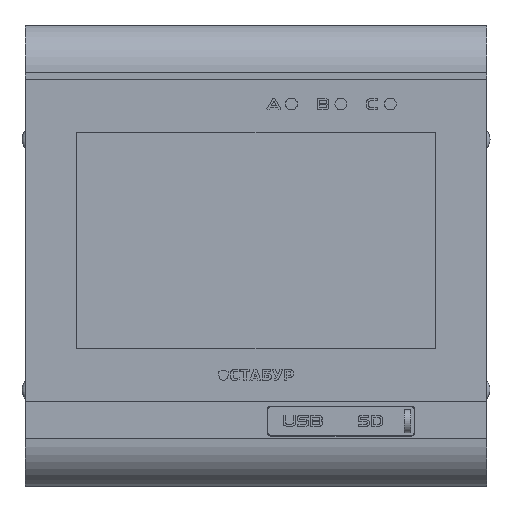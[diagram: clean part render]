
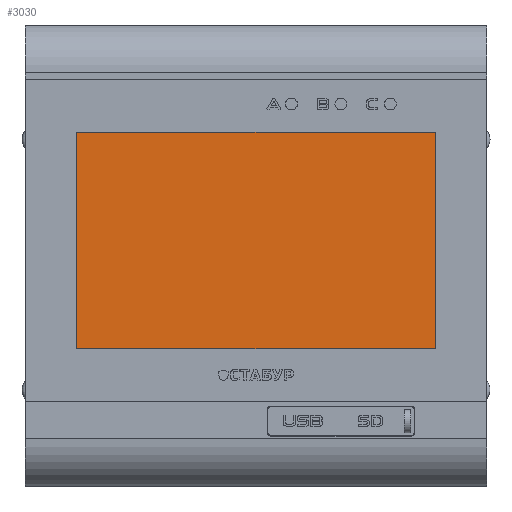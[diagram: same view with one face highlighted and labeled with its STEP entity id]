
A CAD part, top view. The second image highlights one B-rep face of the part: STEP entity #3030.
In plain terms, the highlighted planar face has unit normal (0, 0, 1).
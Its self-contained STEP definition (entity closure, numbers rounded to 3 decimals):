
#635 = CARTESIAN_POINT ( 'NONE',  ( 124.45, 107.493, 10.85 ) ) ;
#985 = VECTOR ( 'NONE', #49834, 1000. ) ;
#3030 = ADVANCED_FACE ( 'NONE', ( #22650 ), #9024, .T. ) ;
#3526 = ORIENTED_EDGE ( 'NONE', *, *, #13744, .T. ) ;
#4697 = AXIS2_PLACEMENT_3D ( 'NONE', #59233, #45971, #52402 ) ;
#6868 = LINE ( 'NONE', #12135, #985 ) ;
#6874 = CARTESIAN_POINT ( 'NONE',  ( 15.55, 107.493, 10.85 ) ) ;
#8878 = EDGE_CURVE ( 'NONE', #22588, #64436, #14589, .T. ) ;
#9024 = PLANE ( 'NONE',  #4697 ) ;
#9452 = VERTEX_POINT ( 'NONE', #77805 ) ;
#10016 = LINE ( 'NONE', #76765, #72249 ) ;
#11675 = ORIENTED_EDGE ( 'NONE', *, *, #53083, .T. ) ;
#12135 = CARTESIAN_POINT ( 'NONE',  ( 15.55, 41.893, 10.85 ) ) ;
#12859 = ORIENTED_EDGE ( 'NONE', *, *, #73768, .T. ) ;
#13744 = EDGE_CURVE ( 'NONE', #64436, #9452, #10016, .T. ) ;
#14589 = LINE ( 'NONE', #635, #22286 ) ;
#18136 = LINE ( 'NONE', #6874, #63157 ) ;
#18918 = DIRECTION ( 'NONE',  ( 0., -1., 0. ) ) ;
#19372 = CARTESIAN_POINT ( 'NONE',  ( 124.45, 107.493, 10.85 ) ) ;
#20861 = CARTESIAN_POINT ( 'NONE',  ( 124.45, 41.893, 10.85 ) ) ;
#22286 = VECTOR ( 'NONE', #43564, 1000. ) ;
#22588 = VERTEX_POINT ( 'NONE', #20861 ) ;
#22650 = FACE_OUTER_BOUND ( 'NONE', #70461, .T. ) ;
#23900 = ORIENTED_EDGE ( 'NONE', *, *, #8878, .T. ) ;
#39744 = DIRECTION ( 'NONE',  ( -1., 0., 0. ) ) ;
#43564 = DIRECTION ( 'NONE',  ( 0., 1., 0. ) ) ;
#45971 = DIRECTION ( 'NONE',  ( 0., 0., 1. ) ) ;
#49834 = DIRECTION ( 'NONE',  ( 1., 0., 0. ) ) ;
#52402 = DIRECTION ( 'NONE',  ( 1., 0., 0. ) ) ;
#53083 = EDGE_CURVE ( 'NONE', #9452, #59879, #18136, .T. ) ;
#58311 = CARTESIAN_POINT ( 'NONE',  ( 15.55, 41.893, 10.85 ) ) ;
#59233 = CARTESIAN_POINT ( 'NONE',  ( 70., 25.893, 10.85 ) ) ;
#59879 = VERTEX_POINT ( 'NONE', #58311 ) ;
#63157 = VECTOR ( 'NONE', #18918, 1000. ) ;
#64436 = VERTEX_POINT ( 'NONE', #19372 ) ;
#70461 = EDGE_LOOP ( 'NONE', ( #11675, #12859, #23900, #3526 ) ) ;
#72249 = VECTOR ( 'NONE', #39744, 1000. ) ;
#73768 = EDGE_CURVE ( 'NONE', #59879, #22588, #6868, .T. ) ;
#76765 = CARTESIAN_POINT ( 'NONE',  ( 15.55, 107.493, 10.85 ) ) ;
#77805 = CARTESIAN_POINT ( 'NONE',  ( 15.55, 107.493, 10.85 ) ) ;
